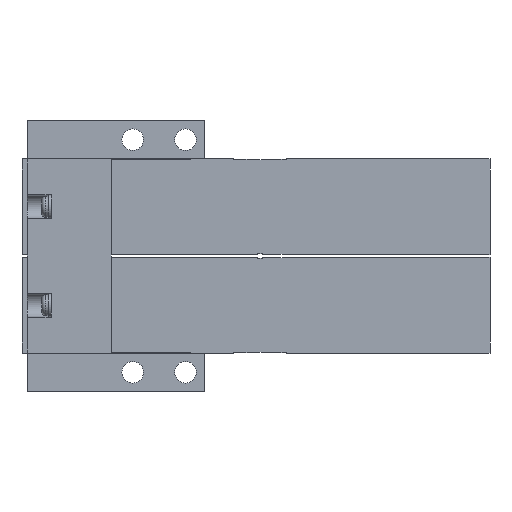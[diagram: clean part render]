
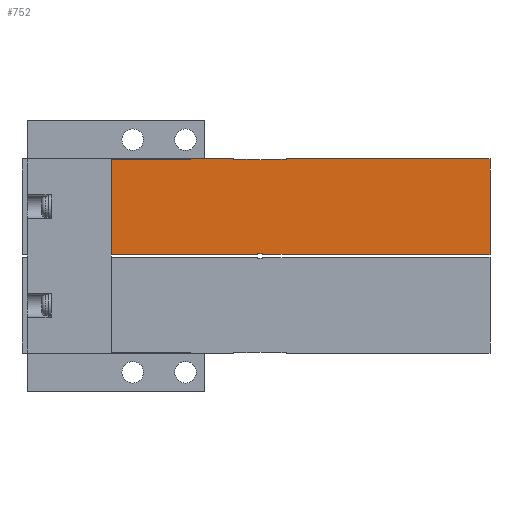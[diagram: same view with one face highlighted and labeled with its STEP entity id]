
A CAD part, front view. The second image highlights one B-rep face of the part: STEP entity #752.
In plain terms, the highlighted planar face has unit normal (0, -1, 0).
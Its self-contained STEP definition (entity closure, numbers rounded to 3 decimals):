
#752=ADVANCED_FACE('',(#1658),#1659,.F.);
#1658=FACE_OUTER_BOUND('',#2674,.T.);
#1659=PLANE('',#2675);
#2674=EDGE_LOOP('',(#5981,#5982,#5983,#5984,#5985,#5986,#5987,#5988,#5989,#5990,#5991,#5992,#5993,#5994,#5995,#5996,#5997,#5998,#5999,#6000,#6001,#6002,#6003,#6004));
#2675=AXIS2_PLACEMENT_3D('',#6005,#6006,#6007);
#5981=ORIENTED_EDGE('',*,*,#7323,.F.);
#5982=ORIENTED_EDGE('',*,*,#7379,.T.);
#5983=ORIENTED_EDGE('',*,*,#7333,.T.);
#5984=ORIENTED_EDGE('',*,*,#7407,.F.);
#5985=ORIENTED_EDGE('',*,*,#7482,.F.);
#5986=ORIENTED_EDGE('',*,*,#7351,.T.);
#5987=ORIENTED_EDGE('',*,*,#7229,.F.);
#5988=ORIENTED_EDGE('',*,*,#7429,.T.);
#5989=ORIENTED_EDGE('',*,*,#7425,.F.);
#5990=ORIENTED_EDGE('',*,*,#7474,.T.);
#5991=ORIENTED_EDGE('',*,*,#7460,.T.);
#5992=ORIENTED_EDGE('',*,*,#7288,.T.);
#5993=ORIENTED_EDGE('',*,*,#7483,.T.);
#5994=ORIENTED_EDGE('',*,*,#7381,.F.);
#5995=ORIENTED_EDGE('',*,*,#7484,.T.);
#5996=ORIENTED_EDGE('',*,*,#7408,.F.);
#5997=ORIENTED_EDGE('',*,*,#7310,.T.);
#5998=ORIENTED_EDGE('',*,*,#7378,.T.);
#5999=ORIENTED_EDGE('',*,*,#7274,.T.);
#6000=ORIENTED_EDGE('',*,*,#7313,.T.);
#6001=ORIENTED_EDGE('',*,*,#7485,.T.);
#6002=ORIENTED_EDGE('',*,*,#7190,.F.);
#6003=ORIENTED_EDGE('',*,*,#7217,.F.);
#6004=ORIENTED_EDGE('',*,*,#7315,.F.);
#6005=CARTESIAN_POINT('',(18.6,0.0,10.0));
#6006=DIRECTION('',(-0.0,1.0,0.0));
#6007=DIRECTION('',(1.0,0.0,0.0));
#7190=EDGE_CURVE('',#8815,#8810,#8817,.T.);
#7217=EDGE_CURVE('',#8866,#8815,#8869,.T.);
#7229=EDGE_CURVE('',#8890,#8886,#8892,.T.);
#7274=EDGE_CURVE('',#8976,#8977,#8978,.T.);
#7288=EDGE_CURVE('',#9000,#8998,#9001,.T.);
#7310=EDGE_CURVE('',#9035,#9040,#9042,.T.);
#7313=EDGE_CURVE('',#8977,#9045,#9047,.T.);
#7315=EDGE_CURVE('',#9048,#8866,#9050,.T.);
#7323=EDGE_CURVE('',#9060,#9048,#9063,.T.);
#7333=EDGE_CURVE('',#9073,#9075,#9077,.T.);
#7351=EDGE_CURVE('',#9108,#8886,#9109,.T.);
#7378=EDGE_CURVE('',#9040,#8976,#9148,.T.);
#7379=EDGE_CURVE('',#9060,#9073,#9149,.T.);
#7381=EDGE_CURVE('',#9151,#9153,#9154,.T.);
#7407=EDGE_CURVE('',#9195,#9075,#9196,.T.);
#7408=EDGE_CURVE('',#9035,#9197,#9198,.T.);
#7425=EDGE_CURVE('',#9224,#9226,#9227,.T.);
#7429=EDGE_CURVE('',#8890,#9226,#9232,.T.);
#7460=EDGE_CURVE('',#9277,#9000,#9278,.T.);
#7474=EDGE_CURVE('',#9224,#9277,#9293,.T.);
#7482=EDGE_CURVE('',#9108,#9195,#9301,.T.);
#7483=EDGE_CURVE('',#8998,#9153,#9302,.T.);
#7484=EDGE_CURVE('',#9151,#9197,#9303,.T.);
#7485=EDGE_CURVE('',#9045,#8810,#9304,.T.);
#8810=VERTEX_POINT('',#11403);
#8815=VERTEX_POINT('',#11410);
#8817=LINE('',#11413,#11414);
#8866=VERTEX_POINT('',#11510);
#8869=LINE('',#11514,#11515);
#8886=VERTEX_POINT('',#11540);
#8890=VERTEX_POINT('',#11546);
#8892=LINE('',#11549,#11550);
#8976=VERTEX_POINT('',#11671);
#8977=VERTEX_POINT('',#11672);
#8978=LINE('',#11673,#11674);
#8998=VERTEX_POINT('',#11725);
#9000=VERTEX_POINT('',#11728);
#9001=LINE('',#11729,#11730);
#9035=VERTEX_POINT('',#11777);
#9040=VERTEX_POINT('',#11784);
#9042=LINE('',#11787,#11788);
#9045=VERTEX_POINT('',#11792);
#9047=LINE('',#11795,#11796);
#9048=VERTEX_POINT('',#11797);
#9050=LINE('',#11800,#11801);
#9060=VERTEX_POINT('',#11842);
#9063=LINE('',#11846,#11847);
#9073=VERTEX_POINT('',#11864);
#9075=VERTEX_POINT('',#11867);
#9077=LINE('',#11870,#11871);
#9108=VERTEX_POINT('',#11916);
#9109=LINE('',#11917,#11918);
#9148=LINE('',#11983,#11984);
#9149=LINE('',#11985,#11986);
#9151=VERTEX_POINT('',#11988);
#9153=VERTEX_POINT('',#11991);
#9154=LINE('',#11992,#11993);
#9195=VERTEX_POINT('',#12058);
#9196=LINE('',#12059,#12060);
#9197=VERTEX_POINT('',#12061);
#9198=LINE('',#12062,#12063);
#9224=VERTEX_POINT('',#12102);
#9226=VERTEX_POINT('',#12105);
#9227=LINE('',#12106,#12107);
#9232=LINE('',#12115,#12116);
#9277=VERTEX_POINT('',#12190);
#9278=LINE('',#12191,#12192);
#9293=LINE('',#12220,#12221);
#9301=LINE('',#12234,#12235);
#9302=LINE('',#12236,#12237);
#9303=LINE('',#12238,#12239);
#9304=LINE('',#12240,#12241);
#11403=CARTESIAN_POINT('',(97.6,0.0,-10.0));
#11410=CARTESIAN_POINT('',(97.6,0.0,10.0));
#11413=CARTESIAN_POINT('',(97.6,0.0,10.0));
#11414=VECTOR('',#13494,1.0);
#11510=CARTESIAN_POINT('',(55.1,0.0,10.0));
#11514=CARTESIAN_POINT('',(18.6,0.0,10.0));
#11515=VECTOR('',#13528,1.0);
#11540=CARTESIAN_POINT('',(44.1,0.0,10.0));
#11546=CARTESIAN_POINT('',(35.1,0.0,10.0));
#11549=CARTESIAN_POINT('',(18.6,0.0,10.0));
#11550=VECTOR('',#13540,1.0);
#11671=CARTESIAN_POINT('',(50.1,0.0,-9.9));
#11672=CARTESIAN_POINT('',(55.1,0.0,-9.9));
#11673=CARTESIAN_POINT('',(44.1,0.0,-9.9));
#11674=VECTOR('',#13599,1.0);
#11725=CARTESIAN_POINT('',(35.1,0.0,-10.0));
#11728=CARTESIAN_POINT('',(35.1,0.0,-9.9));
#11729=CARTESIAN_POINT('',(35.1,0.0,-9.9));
#11730=VECTOR('',#13618,1.0);
#11777=CARTESIAN_POINT('',(49.1,0.0,-9.8));
#11784=CARTESIAN_POINT('',(50.1,0.0,-9.8));
#11787=CARTESIAN_POINT('',(18.6,0.0,-9.8));
#11788=VECTOR('',#13650,1.0);
#11792=CARTESIAN_POINT('',(55.1,0.0,-10.0));
#11795=CARTESIAN_POINT('',(55.1,0.0,-9.9));
#11796=VECTOR('',#13653,1.0);
#11797=CARTESIAN_POINT('',(55.1,0.0,9.9));
#11800=CARTESIAN_POINT('',(55.1,0.0,9.9));
#11801=VECTOR('',#13655,1.0);
#11842=CARTESIAN_POINT('',(50.1,0.0,9.9));
#11846=CARTESIAN_POINT('',(44.1,0.0,9.9));
#11847=VECTOR('',#13664,1.0);
#11864=CARTESIAN_POINT('',(50.1,0.0,9.8));
#11867=CARTESIAN_POINT('',(49.1,0.0,9.8));
#11870=CARTESIAN_POINT('',(18.6,0.0,9.8));
#11871=VECTOR('',#13674,1.0);
#11916=CARTESIAN_POINT('',(44.1,0.0,9.9));
#11917=CARTESIAN_POINT('',(44.1,0.0,9.9));
#11918=VECTOR('',#13698,1.0);
#11983=CARTESIAN_POINT('',(50.1,0.0,10.0));
#11984=VECTOR('',#13725,1.0);
#11985=CARTESIAN_POINT('',(50.1,0.0,10.0));
#11986=VECTOR('',#13726,1.0);
#11988=CARTESIAN_POINT('',(44.1,0.0,-9.9));
#11991=CARTESIAN_POINT('',(44.1,0.0,-10.0));
#11992=CARTESIAN_POINT('',(44.1,0.0,-9.9));
#11993=VECTOR('',#13728,1.0);
#12058=CARTESIAN_POINT('',(49.1,0.0,9.9));
#12059=CARTESIAN_POINT('',(49.1,0.0,10.0));
#12060=VECTOR('',#13753,1.0);
#12061=CARTESIAN_POINT('',(49.1,0.0,-9.9));
#12062=CARTESIAN_POINT('',(49.1,0.0,10.0));
#12063=VECTOR('',#13754,1.0);
#12102=CARTESIAN_POINT('',(18.6,0.0,9.9));
#12105=CARTESIAN_POINT('',(35.1,0.0,9.9));
#12106=CARTESIAN_POINT('',(18.6,0.0,9.9));
#12107=VECTOR('',#13775,1.0);
#12115=CARTESIAN_POINT('',(35.1,0.0,10.1));
#12116=VECTOR('',#13779,1.0);
#12190=CARTESIAN_POINT('',(18.6,0.0,-9.9));
#12191=CARTESIAN_POINT('',(18.6,0.0,-9.9));
#12192=VECTOR('',#13812,1.0);
#12220=CARTESIAN_POINT('',(18.6,0.0,10.0));
#12221=VECTOR('',#13826,1.0);
#12234=CARTESIAN_POINT('',(44.1,0.0,9.9));
#12235=VECTOR('',#13838,1.0);
#12236=CARTESIAN_POINT('',(18.6,0.0,-10.0));
#12237=VECTOR('',#13839,1.0);
#12238=CARTESIAN_POINT('',(44.1,0.0,-9.9));
#12239=VECTOR('',#13840,1.0);
#12240=CARTESIAN_POINT('',(18.6,0.0,-10.0));
#12241=VECTOR('',#13841,1.0);
#13494=DIRECTION('',(0.0,0.0,-1.0));
#13528=DIRECTION('',(1.0,0.0,0.0));
#13540=DIRECTION('',(1.0,0.0,0.0));
#13599=DIRECTION('',(1.0,0.0,0.0));
#13618=DIRECTION('',(0.0,0.0,-1.0));
#13650=DIRECTION('',(1.0,0.0,0.0));
#13653=DIRECTION('',(0.0,0.0,-1.0));
#13655=DIRECTION('',(0.0,0.0,1.0));
#13664=DIRECTION('',(1.0,0.0,0.0));
#13674=DIRECTION('',(-1.0,0.0,0.0));
#13698=DIRECTION('',(0.0,0.0,1.0));
#13725=DIRECTION('',(0.0,0.0,-1.0));
#13726=DIRECTION('',(0.0,0.0,-1.0));
#13728=DIRECTION('',(0.0,0.0,-1.0));
#13753=DIRECTION('',(0.0,0.0,-1.0));
#13754=DIRECTION('',(0.0,0.0,-1.0));
#13775=DIRECTION('',(1.0,0.0,0.0));
#13779=DIRECTION('',(0.0,0.0,-1.0));
#13812=DIRECTION('',(1.0,0.0,0.0));
#13826=DIRECTION('',(0.0,0.0,-1.0));
#13838=DIRECTION('',(1.0,0.0,0.0));
#13839=DIRECTION('',(1.0,0.0,0.0));
#13840=DIRECTION('',(1.0,0.0,0.0));
#13841=DIRECTION('',(1.0,0.0,0.0));
